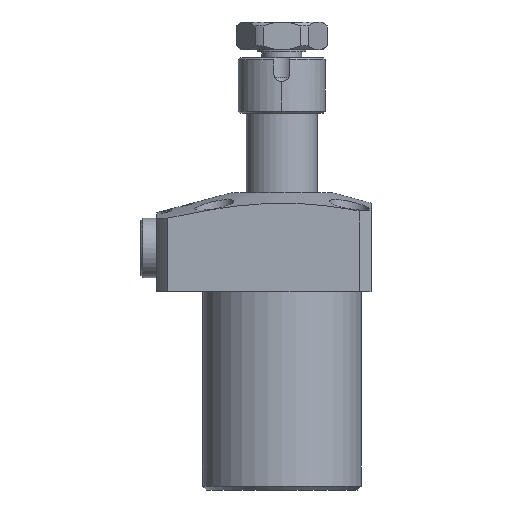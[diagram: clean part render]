
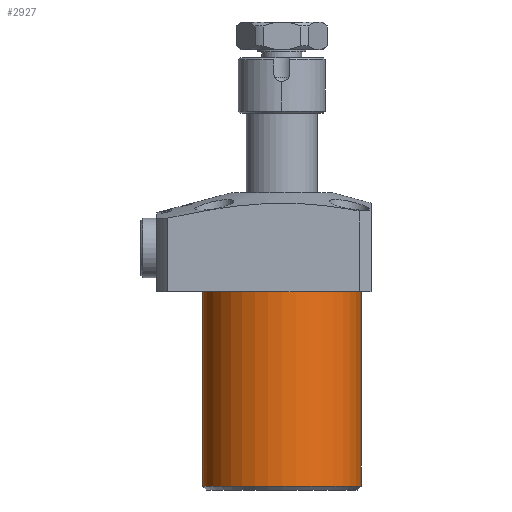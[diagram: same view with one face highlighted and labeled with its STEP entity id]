
A CAD part, front view. The second image highlights one B-rep face of the part: STEP entity #2927.
In plain terms, the highlighted cylindrical face has radius 20 mm (diameter 40 mm), a partial arc.
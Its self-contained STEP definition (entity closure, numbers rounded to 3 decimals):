
#458 = CYLINDRICAL_SURFACE ( 'NONE', #11261, 20. ) ;
#935 = VERTEX_POINT ( 'NONE', #6084 ) ;
#1151 = LINE ( 'NONE', #12901, #7772 ) ;
#2336 = EDGE_CURVE ( 'NONE', #12124, #935, #10667, .T. ) ;
#2927 = ADVANCED_FACE ( 'NONE', ( #11173 ), #458, .T. ) ;
#2958 = CARTESIAN_POINT ( 'NONE',  ( 20., 0., 0. ) ) ;
#3195 = CARTESIAN_POINT ( 'NONE',  ( -20., 0., -49. ) ) ;
#4141 = ORIENTED_EDGE ( 'NONE', *, *, #2336, .F. ) ;
#4183 = CARTESIAN_POINT ( 'NONE',  ( -20., 0., -50. ) ) ;
#4459 = CARTESIAN_POINT ( 'NONE',  ( 0., 0., -49. ) ) ;
#4729 = EDGE_CURVE ( 'NONE', #7534, #935, #13677, .T. ) ;
#5167 = ORIENTED_EDGE ( 'NONE', *, *, #6191, .T. ) ;
#5430 = CIRCLE ( 'NONE', #16021, 20. ) ;
#5710 = DIRECTION ( 'NONE',  ( -1., 0., 0. ) ) ;
#6084 = CARTESIAN_POINT ( 'NONE',  ( -20., 0., 0. ) ) ;
#6148 = DIRECTION ( 'NONE',  ( 0., 0., 1. ) ) ;
#6191 = EDGE_CURVE ( 'NONE', #12124, #9809, #5430, .T. ) ;
#6467 = DIRECTION ( 'NONE',  ( 0., 0., 1. ) ) ;
#6989 = CARTESIAN_POINT ( 'NONE',  ( 0., 0., 0. ) ) ;
#6992 = ORIENTED_EDGE ( 'NONE', *, *, #7789, .T. ) ;
#7534 = VERTEX_POINT ( 'NONE', #2958 ) ;
#7772 = VECTOR ( 'NONE', #6467, 1000. ) ;
#7789 = EDGE_CURVE ( 'NONE', #9809, #7534, #1151, .T. ) ;
#8242 = DIRECTION ( 'NONE',  ( -1., 0., 0. ) ) ;
#8285 = ORIENTED_EDGE ( 'NONE', *, *, #4729, .T. ) ;
#8556 = DIRECTION ( 'NONE',  ( 1., 0., 0. ) ) ;
#9809 = VERTEX_POINT ( 'NONE', #9996 ) ;
#9996 = CARTESIAN_POINT ( 'NONE',  ( 20., 0., -49. ) ) ;
#10667 = LINE ( 'NONE', #4183, #13952 ) ;
#11173 = FACE_OUTER_BOUND ( 'NONE', #14874, .T. ) ;
#11261 = AXIS2_PLACEMENT_3D ( 'NONE', #13511, #6148, #8556 ) ;
#11657 = DIRECTION ( 'NONE',  ( 0., 0., 1. ) ) ;
#12124 = VERTEX_POINT ( 'NONE', #3195 ) ;
#12901 = CARTESIAN_POINT ( 'NONE',  ( 20., 0., -50. ) ) ;
#13199 = DIRECTION ( 'NONE',  ( 0., 0., 1. ) ) ;
#13511 = CARTESIAN_POINT ( 'NONE',  ( 0., 0., -50. ) ) ;
#13677 = CIRCLE ( 'NONE', #14449, 20. ) ;
#13952 = VECTOR ( 'NONE', #11657, 1000. ) ;
#14449 = AXIS2_PLACEMENT_3D ( 'NONE', #6989, #15657, #8242 ) ;
#14874 = EDGE_LOOP ( 'NONE', ( #4141, #5167, #6992, #8285 ) ) ;
#15657 = DIRECTION ( 'NONE',  ( 0., 0., -1. ) ) ;
#16021 = AXIS2_PLACEMENT_3D ( 'NONE', #4459, #13199, #5710 ) ;
